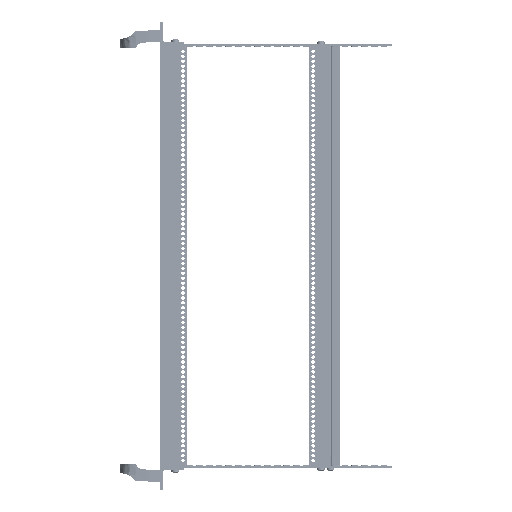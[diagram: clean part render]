
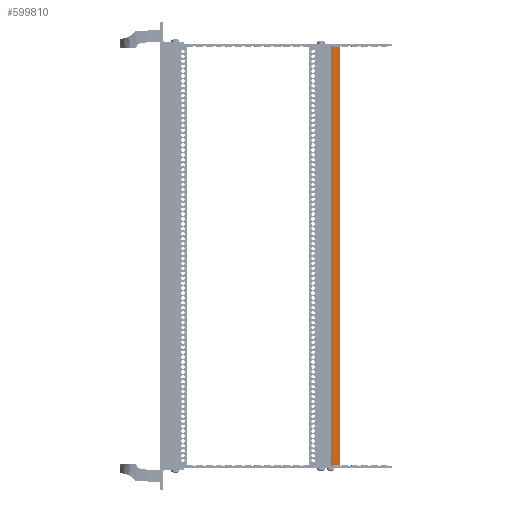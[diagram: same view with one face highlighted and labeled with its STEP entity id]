
A CAD part, front view. The second image highlights one B-rep face of the part: STEP entity #599810.
In plain terms, the highlighted planar face has unit normal (0, -1, 0).
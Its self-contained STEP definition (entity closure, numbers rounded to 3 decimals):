
#554930=CARTESIAN_POINT('',(-1259.913,1584.071,0.));
#554940=VERTEX_POINT('',#554930);
#554970=CARTESIAN_POINT('',(0.,1584.071,0.));
#554980=DIRECTION('',(-1.,0.,0.));
#554990=VECTOR('',#554980,1.);
#555000=LINE('',#554970,#554990);
#555010=CARTESIAN_POINT('',(-1251.973,1584.071,0.));
#555020=VERTEX_POINT('',#555010);
#555030=EDGE_CURVE('',#555020,#554940,#555000,.T.);
#576040=CARTESIAN_POINT('',(-1259.913,1584.071,
434.4));
#576050=DIRECTION('',(0.,0.,-1.));
#576060=VECTOR('',#576050,1.);
#576070=LINE('',#576040,#576060);
#576080=CARTESIAN_POINT('',(-1259.913,1584.071,431.9));
#576090=VERTEX_POINT('',#576080);
#576100=EDGE_CURVE('',#576090,#554940,#576070,.T.);
#597970=CARTESIAN_POINT('',(-1251.973,1584.071,
434.4));
#597980=DIRECTION('',(0.,0.,-1.));
#597990=VECTOR('',#597980,1.);
#598000=LINE('',#597970,#597990);
#598010=CARTESIAN_POINT('',(-1251.973,1584.071,431.9));
#598020=VERTEX_POINT('',#598010);
#598030=EDGE_CURVE('',#598020,#555020,#598000,.T.);
#599650=CARTESIAN_POINT('',(-1259.913,1584.071,
434.4));
#599660=DIRECTION('',(0.,-1.,0.));
#599670=DIRECTION('',(-1.,0.,0.));
#599680=AXIS2_PLACEMENT_3D('',#599650,#599660,#599670);
#599690=PLANE('',#599680);
#599700=ORIENTED_EDGE('',*,*,#598030,.F.);
#599710=ORIENTED_EDGE('',*,*,#555030,.F.);
#599720=ORIENTED_EDGE('',*,*,#576100,.T.);
#599730=CARTESIAN_POINT('',(0.,1584.071,431.9));
#599740=DIRECTION('',(-1.,0.,0.));
#599750=VECTOR('',#599740,1.);
#599760=LINE('',#599730,#599750);
#599770=EDGE_CURVE('',#598020,#576090,#599760,.T.);
#599780=ORIENTED_EDGE('',*,*,#599770,.T.);
#599790=EDGE_LOOP('',(#599780,#599720,#599710,#599700));
#599800=FACE_OUTER_BOUND('',#599790,.T.);
#599810=ADVANCED_FACE('',(#599800),#599690,.T.);
